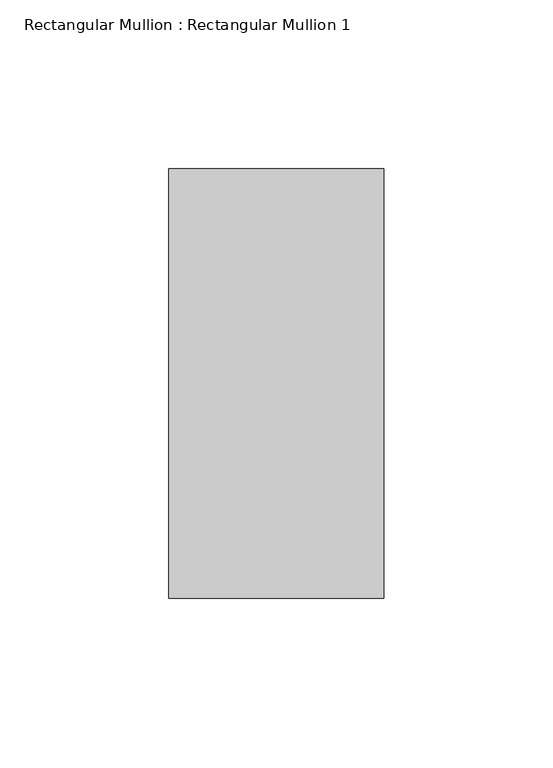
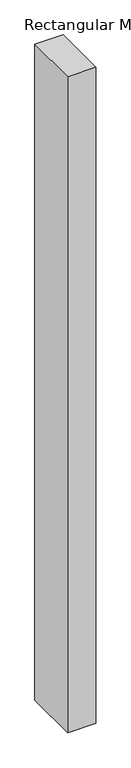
"""IFC4 building model written with IfcOpenShell, lengths in millimetres: member geometry, Rectangular Mullion : Rectangular Mullion 1."""

from ifc_helpers import new_model, si_unit, frame, origin, place, context, project, spatial, polyline, outline, extrude, source, transform, mapped, element, save


def rectangular_mullion_rectangular_mullion_1_e2af7eb3(model_context):
    return source(origin(), model_context, "Body", "SweptSolid", [
        extrude(outline(polyline([(0.0, 63.5), (0.0, -63.5), (-63.5, -63.5), (-63.5, 63.5), (0.0, 63.5)])), frame((0.0, 0.0, -1556.4999998), z_axis=(0.0, 0.0, 1.0), x_axis=(1.0, 0.0, 0.0)), (0.0, 0.0, 1.0), 1556.4999998),
    ])


if __name__ == "__main__":
    model = new_model("IFC4")
    model_context = context("Model", 3, world=origin())
    ifc_project = project(units=[si_unit("LENGTHUNIT", "METRE", prefix="MILLI")], contexts=[model_context])
    site = spatial("IfcSite", under=ifc_project)
    building = spatial("IfcBuilding", under=site)
    placement = place(None, origin())
    rectangular_mullion_rectangular_mullion_1_shape = rectangular_mullion_rectangular_mullion_1_e2af7eb3(model_context)
    element("IfcMember", 1, ObjectType="Rectangular Mullion : Rectangular Mullion 1", at=placement, inside=building, context=model_context, shape_type="MappedRepresentation", body=[
        mapped(rectangular_mullion_rectangular_mullion_1_shape, transform((0.0, 0.0, 0.0), x_axis=(1.0, 0.0, 0.0), y_axis=(0.0, 1.0, 0.0), z_axis=(0.0, 0.0, 1.0))),
    ])
    save(model, "model.ifc")
